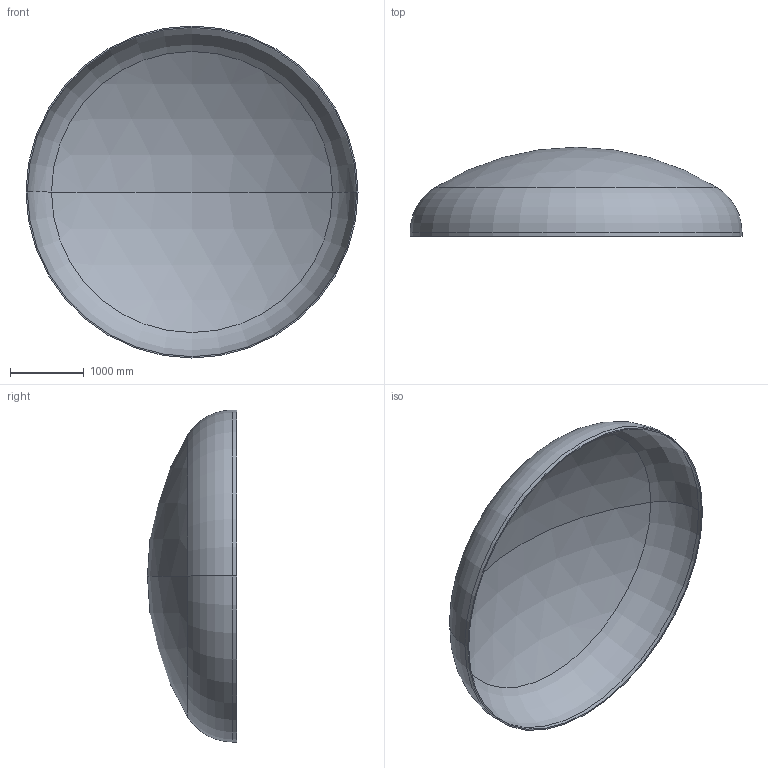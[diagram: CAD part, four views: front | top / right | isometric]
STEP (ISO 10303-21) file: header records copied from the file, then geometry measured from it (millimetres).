
FILE_DESCRIPTION (( 'STEP AP203' ), '1' );
FILE_NAME ('DIN 28013 Korbbogenform_-_Boden DIN 28013 - 4500 x 55 - I - s=18.step', '2016-07-01T23:07:24', ( '' ), ( '' ), 'SwSTEP 2.0', 'SolidWorks 2013', '' );
FILE_SCHEMA (( 'CONFIG_CONTROL_DESIGN' ));
Length unit declared in the file: millimetre
Products named in the file (1): DIN 28013 Korbbogenform_-_Boden DIN 28013 - 4500 x 55 - I - s=18
Bounding box: 4500 x 1207.91 x 4500 mm (x, y, z)
Volume: 408580754.9 mm3; surface area: 45651973.2 mm2
Topology: 1 solids, 1 shells, 13 faces, 24 edges, 14 vertices
Faces by surface type: torus 4, cylinder 4, sphere 4, plane 1
Entity records: 407 total; most frequent: DIRECTION 72, CARTESIAN_POINT 52, ORIENTED_EDGE 48, AXIS2_PLACEMENT_3D 34, EDGE_CURVE 24, CIRCLE 20, VERTEX_POINT 14, EDGE_LOOP 14
